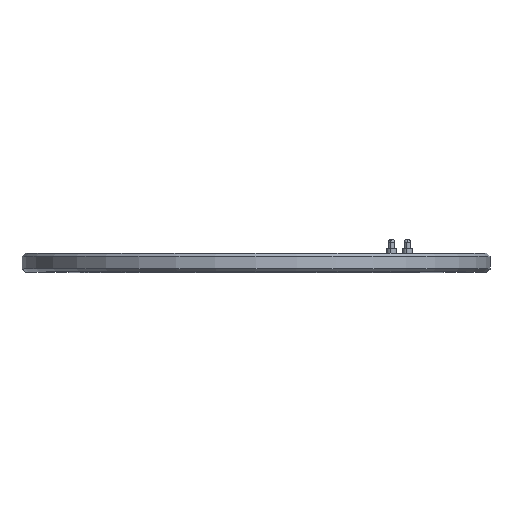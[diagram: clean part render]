
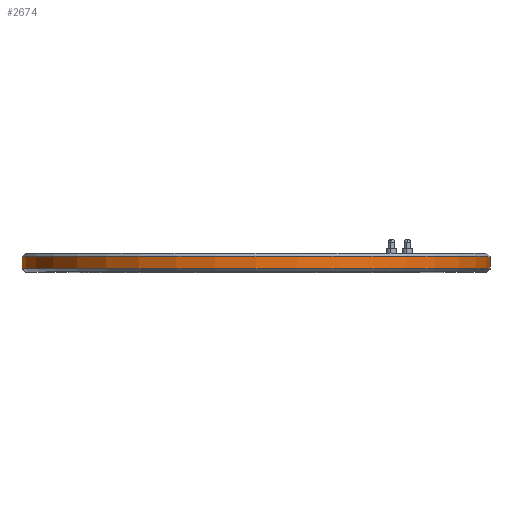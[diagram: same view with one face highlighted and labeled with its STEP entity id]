
A CAD part, top view. The second image highlights one B-rep face of the part: STEP entity #2674.
In plain terms, the highlighted cylindrical face has radius 37.5 mm (diameter 75 mm), a partial arc.
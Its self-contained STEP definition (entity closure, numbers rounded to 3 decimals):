
#116 = ORIENTED_EDGE ( 'NONE', *, *, #1279, .F. ) ;
#169 = CARTESIAN_POINT ( 'NONE',  ( 0., 3., 0. ) ) ;
#342 = ORIENTED_EDGE ( 'NONE', *, *, #4179, .F. ) ;
#462 = CARTESIAN_POINT ( 'NONE',  ( 0., 3., 37.5 ) ) ;
#759 = CIRCLE ( 'NONE', #5127, 37.5 ) ;
#1019 = VERTEX_POINT ( 'NONE', #4436 ) ;
#1279 = EDGE_CURVE ( 'NONE', #1019, #4283, #5394, .T. ) ;
#1463 = LINE ( 'NONE', #5208, #2883 ) ;
#1568 = DIRECTION ( 'NONE',  ( 0., -1., 0. ) ) ;
#2109 = DIRECTION ( 'NONE',  ( 0., 0., -1. ) ) ;
#2290 = ORIENTED_EDGE ( 'NONE', *, *, #3884, .T. ) ;
#2366 = VERTEX_POINT ( 'NONE', #6884 ) ;
#2646 = DIRECTION ( 'NONE',  ( 0., -1., 0. ) ) ;
#2651 = CARTESIAN_POINT ( 'NONE',  ( 0., 2.5, 0. ) ) ;
#2674 = ADVANCED_FACE ( 'NONE', ( #2924 ), #5085, .T. ) ;
#2883 = VECTOR ( 'NONE', #3084, 1000. ) ;
#2924 = FACE_OUTER_BOUND ( 'NONE', #5878, .T. ) ;
#3084 = DIRECTION ( 'NONE',  ( 0., -1., 0. ) ) ;
#3395 = DIRECTION ( 'NONE',  ( 0., 0., -1. ) ) ;
#3835 = DIRECTION ( 'NONE',  ( 0., 0., 1. ) ) ;
#3884 = EDGE_CURVE ( 'NONE', #1019, #2366, #5927, .T. ) ;
#4140 = ORIENTED_EDGE ( 'NONE', *, *, #5786, .T. ) ;
#4179 = EDGE_CURVE ( 'NONE', #4283, #6789, #759, .T. ) ;
#4283 = VERTEX_POINT ( 'NONE', #4302 ) ;
#4302 = CARTESIAN_POINT ( 'NONE',  ( 0., 0.5, 37.5 ) ) ;
#4436 = CARTESIAN_POINT ( 'NONE',  ( 0., 2.5, 37.5 ) ) ;
#4437 = AXIS2_PLACEMENT_3D ( 'NONE', #2651, #7036, #2109 ) ;
#4855 = AXIS2_PLACEMENT_3D ( 'NONE', #169, #5046, #3395 ) ;
#5046 = DIRECTION ( 'NONE',  ( 0., -1., 0. ) ) ;
#5085 = CYLINDRICAL_SURFACE ( 'NONE', #4855, 37.5 ) ;
#5127 = AXIS2_PLACEMENT_3D ( 'NONE', #6029, #1568, #3835 ) ;
#5208 = CARTESIAN_POINT ( 'NONE',  ( 0., 3., -37.5 ) ) ;
#5223 = CARTESIAN_POINT ( 'NONE',  ( 0., 0.5, -37.5 ) ) ;
#5394 = LINE ( 'NONE', #462, #6020 ) ;
#5786 = EDGE_CURVE ( 'NONE', #2366, #6789, #1463, .T. ) ;
#5878 = EDGE_LOOP ( 'NONE', ( #116, #2290, #4140, #342 ) ) ;
#5927 = CIRCLE ( 'NONE', #4437, 37.5 ) ;
#6020 = VECTOR ( 'NONE', #2646, 1000. ) ;
#6029 = CARTESIAN_POINT ( 'NONE',  ( 0., 0.5, 0. ) ) ;
#6789 = VERTEX_POINT ( 'NONE', #5223 ) ;
#6884 = CARTESIAN_POINT ( 'NONE',  ( 0., 2.5, -37.5 ) ) ;
#7036 = DIRECTION ( 'NONE',  ( 0., -1., 0. ) ) ;
